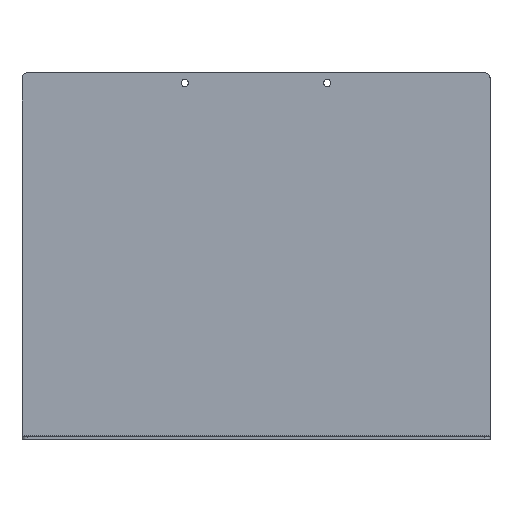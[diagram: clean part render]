
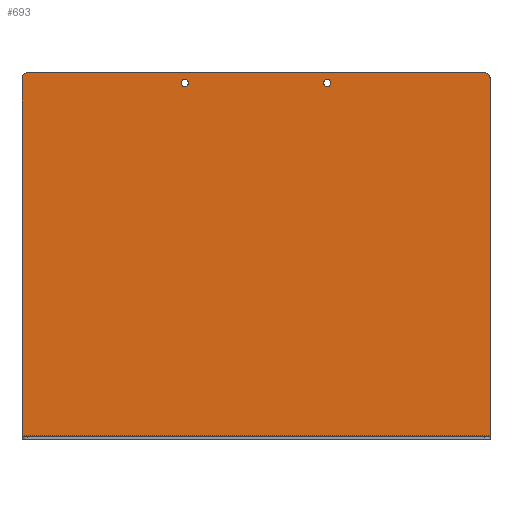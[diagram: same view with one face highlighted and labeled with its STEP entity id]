
A CAD part, top view. The second image highlights one B-rep face of the part: STEP entity #693.
In plain terms, the highlighted planar face has unit normal (0, 0, 1).
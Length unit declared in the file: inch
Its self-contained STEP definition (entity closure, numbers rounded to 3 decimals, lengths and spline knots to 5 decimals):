
#107=CARTESIAN_POINT('',(5.625,4.5,0.055));
#108=VERTEX_POINT('',#107);
#109=CARTESIAN_POINT('',(5.75,4.375,0.055));
#110=VERTEX_POINT('',#109);
#111=CARTESIAN_POINT('',(5.625,4.375,0.055));
#112=DIRECTION('',(0.0,0.0,-1.0));
#113=DIRECTION('',(0.707,0.707,0.0));
#114=AXIS2_PLACEMENT_3D('',#111,#112,#113);
#115=CIRCLE('',#114,0.125);
#116=EDGE_CURVE('',#108,#110,#115,.T.);
#158=CARTESIAN_POINT('',(-5.625,4.5,0.055));
#159=VERTEX_POINT('',#158);
#166=CARTESIAN_POINT('',(-5.625,4.5,0.055));
#167=DIRECTION('',(1.0,0.0,0.0));
#168=VECTOR('',#167,11.25);
#169=LINE('',#166,#168);
#170=EDGE_CURVE('',#159,#108,#169,.T.);
#243=CARTESIAN_POINT('',(-5.75,4.375,0.055));
#244=VERTEX_POINT('',#243);
#245=CARTESIAN_POINT('',(-5.625,4.375,0.055));
#246=DIRECTION('',(0.0,0.0,-1.0));
#247=DIRECTION('',(-0.707,0.707,0.0));
#248=AXIS2_PLACEMENT_3D('',#245,#246,#247);
#249=CIRCLE('',#248,0.125);
#250=EDGE_CURVE('',#244,#159,#249,.T.);
#270=CARTESIAN_POINT('',(-5.75,-4.414,0.055));
#271=VERTEX_POINT('',#270);
#278=CARTESIAN_POINT('',(-5.75,-4.414,0.055));
#279=DIRECTION('',(0.0,1.0,0.0));
#280=VECTOR('',#279,8.789);
#281=LINE('',#278,#280);
#282=EDGE_CURVE('',#271,#244,#281,.T.);
#496=CARTESIAN_POINT('',(-1.8385,4.25,0.055));
#497=VERTEX_POINT('',#496);
#498=CARTESIAN_POINT('',(-1.75,4.25,0.055));
#499=DIRECTION('',(0.0,0.0,-1.0));
#500=DIRECTION('',(1.0,0.0,0.0));
#501=AXIS2_PLACEMENT_3D('',#498,#499,#500);
#502=CIRCLE('',#501,0.0885);
#503=EDGE_CURVE('',#497,#497,#502,.T.);
#516=CARTESIAN_POINT('',(1.6615,4.25,0.055));
#517=VERTEX_POINT('',#516);
#518=CARTESIAN_POINT('',(1.75,4.25,0.055));
#519=DIRECTION('',(0.0,0.0,-1.0));
#520=DIRECTION('',(1.0,0.0,0.0));
#521=AXIS2_PLACEMENT_3D('',#518,#519,#520);
#522=CIRCLE('',#521,0.0885);
#523=EDGE_CURVE('',#517,#517,#522,.T.);
#585=CARTESIAN_POINT('',(5.75,-4.414,0.055));
#586=VERTEX_POINT('',#585);
#647=CARTESIAN_POINT('',(-5.75,-4.414,0.055));
#648=DIRECTION('',(1.0,0.0,0.0));
#649=VECTOR('',#648,11.5);
#650=LINE('',#647,#649);
#651=EDGE_CURVE('',#271,#586,#650,.T.);
#663=CARTESIAN_POINT('',(5.75,4.375,0.055));
#664=DIRECTION('',(0.0,-1.0,0.0));
#665=VECTOR('',#664,8.789);
#666=LINE('',#663,#665);
#667=EDGE_CURVE('',#110,#586,#666,.T.);
#674=CARTESIAN_POINT('',(0.0,0.,0.055));
#675=DIRECTION('',(0.0,0.0,1.0));
#676=DIRECTION('',(1.0,0.0,0.0));
#677=AXIS2_PLACEMENT_3D('',#674,#675,#676);
#678=PLANE('',#677);
#679=ORIENTED_EDGE('',*,*,#116,.F.);
#680=ORIENTED_EDGE('',*,*,#170,.F.);
#681=ORIENTED_EDGE('',*,*,#250,.F.);
#682=ORIENTED_EDGE('',*,*,#282,.F.);
#683=ORIENTED_EDGE('',*,*,#651,.T.);
#684=ORIENTED_EDGE('',*,*,#667,.F.);
#685=EDGE_LOOP('',(#679,#680,#681,#682,#683,#684));
#686=FACE_OUTER_BOUND('',#685,.T.);
#687=ORIENTED_EDGE('',*,*,#503,.T.);
#688=EDGE_LOOP('',(#687));
#689=FACE_BOUND('',#688,.T.);
#690=ORIENTED_EDGE('',*,*,#523,.T.);
#691=EDGE_LOOP('',(#690));
#692=FACE_BOUND('',#691,.T.);
#693=ADVANCED_FACE('',(#686,#689,#692),#678,.T.);
